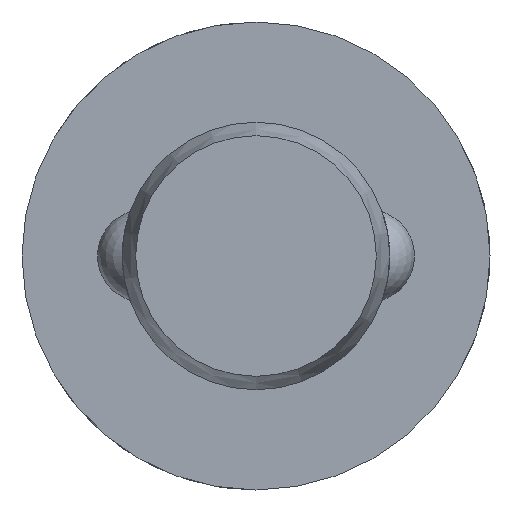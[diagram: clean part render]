
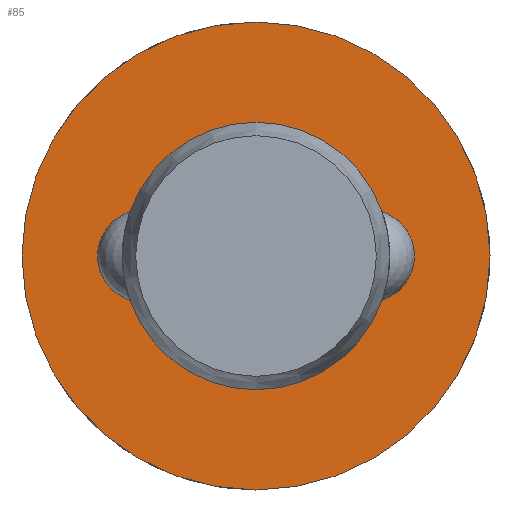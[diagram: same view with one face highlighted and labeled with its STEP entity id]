
A CAD part, left-side view. The second image highlights one B-rep face of the part: STEP entity #85.
In plain terms, the highlighted planar face has unit normal (-1, 0, 0).
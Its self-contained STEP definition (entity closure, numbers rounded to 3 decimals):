
#85 = ADVANCED_FACE( '', ( #130, #131 ), #132, .F. );
#130 = FACE_OUTER_BOUND( '', #200, .T. );
#131 = FACE_BOUND( '', #201, .T. );
#132 = PLANE( '', #202 );
#200 = EDGE_LOOP( '', ( #315 ) );
#201 = EDGE_LOOP( '', ( #316 ) );
#202 = AXIS2_PLACEMENT_3D( '', #317, #318, #319 );
#315 = ORIENTED_EDGE( '', *, *, #458, .F. );
#316 = ORIENTED_EDGE( '', *, *, #455, .T. );
#317 = CARTESIAN_POINT( '', ( 53.2, 4., 0. ) );
#318 = DIRECTION( '', ( 1., 0., 0. ) );
#319 = DIRECTION( '', ( 0., 0., -1. ) );
#455 = EDGE_CURVE( '', #528, #528, #529, .T. );
#458 = EDGE_CURVE( '', #534, #534, #535, .T. );
#528 = VERTEX_POINT( '', #732 );
#529 = CIRCLE( '', #733, 4. );
#534 = VERTEX_POINT( '', #820 );
#535 = CIRCLE( '', #821, 7. );
#732 = CARTESIAN_POINT( '', ( 53.2, 0., -4. ) );
#733 = AXIS2_PLACEMENT_3D( '', #898, #899, #900 );
#820 = CARTESIAN_POINT( '', ( 53.2, 0., -7. ) );
#821 = AXIS2_PLACEMENT_3D( '', #901, #902, #903 );
#898 = CARTESIAN_POINT( '', ( 53.2, 0., 0. ) );
#899 = DIRECTION( '', ( 1., 0., 0. ) );
#900 = DIRECTION( '', ( 0., 0., -1. ) );
#901 = CARTESIAN_POINT( '', ( 53.2, 0., 0. ) );
#902 = DIRECTION( '', ( 1., 0., 0. ) );
#903 = DIRECTION( '', ( 0., 0., -1. ) );
